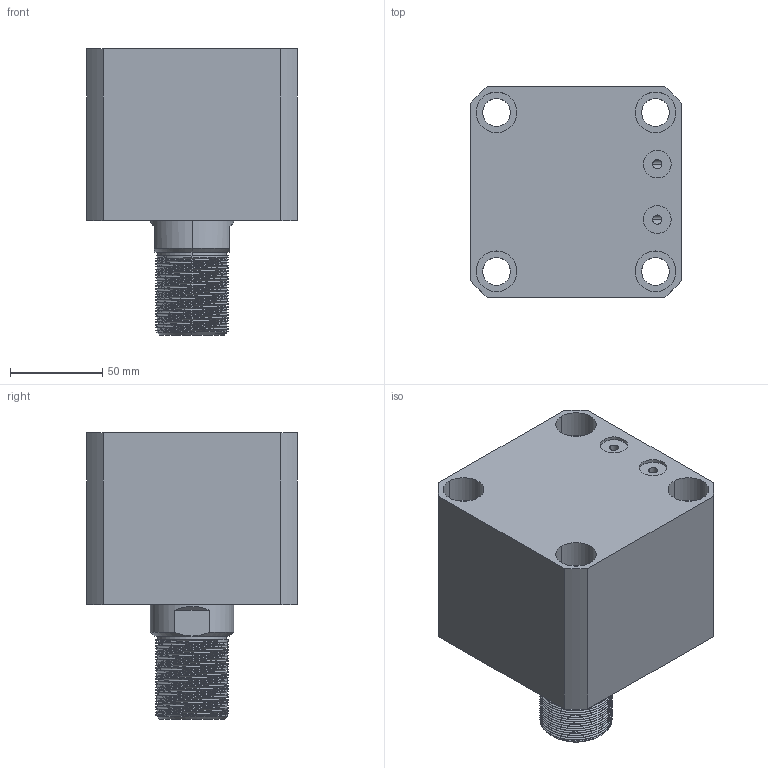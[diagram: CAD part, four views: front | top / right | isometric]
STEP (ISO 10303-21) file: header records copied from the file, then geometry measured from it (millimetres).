
FILE_DESCRIPTION (( 'STEP AP214' ), '1' );
FILE_NAME ('chtb-sdmb80x15w_asm.STEP', '2018-05-26T02:29:50', ( 'Windows' ), ( 'Microsoft' ), 'SwSTEP 2.0', 'SolidWorks 2015', '' );
FILE_SCHEMA (( 'AUTOMOTIVE_DESIGN' ));
Length unit declared in the file: millimetre
Products named in the file (4): CHTB-SDMB80X15NBT; CHTB-SD80X15WHSG; CHTB-SD80QG; chtb-sdmb80x15w_asm
Assembly tree (3 placements, depth 2):
  chtb-sdmb80x15w_asm
    CHTB-SD80QG
    CHTB-SD80X15WHSG
    CHTB-SDMB80X15NBT
Bounding box: 114 x 114 x 155 mm (x, y, z)
Volume: 1111348.3 mm3; surface area: 171832 mm2
Topology: 3 solids, 3 shells, 251 faces, 695 edges, 466 vertices
Faces by surface type: cylinder 163, plane 38, torus 18, bspline 16, cone 16
Entity records: 20297 total; most frequent: CARTESIAN_POINT 14321, ORIENTED_EDGE 1382, DIRECTION 1068, EDGE_CURVE 691, VERTEX_POINT 466, AXIS2_PLACEMENT_3D 433, EDGE_LOOP 289, ADVANCED_FACE 251
